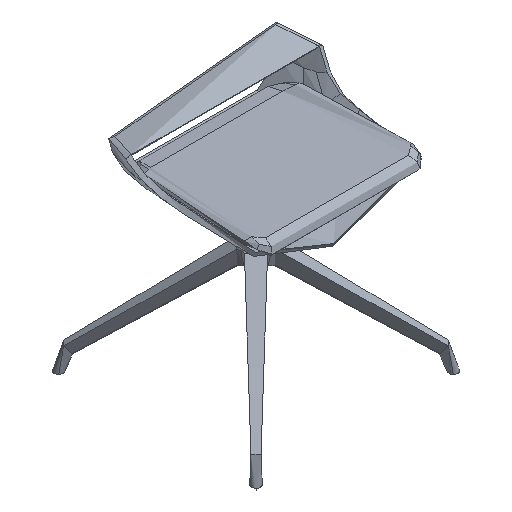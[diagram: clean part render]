
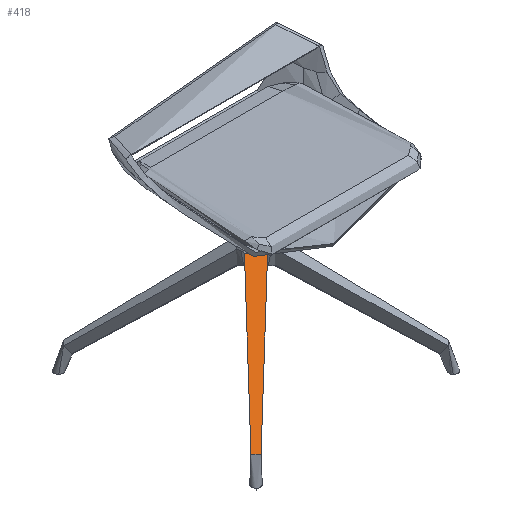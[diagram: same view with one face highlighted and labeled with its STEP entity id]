
A CAD part, isometric view. The second image highlights one B-rep face of the part: STEP entity #418.
In plain terms, the highlighted free-form (B-spline) face has degree [2, 1] with [3, 2] control points.
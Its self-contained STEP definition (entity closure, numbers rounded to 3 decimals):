
#108=(
BOUNDED_CURVE()
B_SPLINE_CURVE(2,(#23962,#23963,#23964),.UNSPECIFIED.,.F.,.F.)
B_SPLINE_CURVE_WITH_KNOTS((3,3),(91.538,481.362),
 .UNSPECIFIED.)
CURVE()
GEOMETRIC_REPRESENTATION_ITEM()
RATIONAL_B_SPLINE_CURVE((1.,0.861,1.))
REPRESENTATION_ITEM('')
);
#209=(
BOUNDED_SURFACE()
B_SPLINE_SURFACE(2,1,((#19577,#19578),(#19579,#19580),(#19581,#19582)),
 .UNSPECIFIED.,.F.,.F.,.F.)
B_SPLINE_SURFACE_WITH_KNOTS((3,3),(2,2),(0.,572.9),(66.217,
469.419),.UNSPECIFIED.)
GEOMETRIC_REPRESENTATION_ITEM()
RATIONAL_B_SPLINE_SURFACE(((1.,1.),(0.707,0.707),
(1.,1.)))
REPRESENTATION_ITEM('')
SURFACE()
);
#418=ADVANCED_FACE('',(#603),#209,.T.);
#603=FACE_OUTER_BOUND('',#788,.T.);
#788=EDGE_LOOP('',(#1499,#1500,#1501,#1502));
#1499=ORIENTED_EDGE('',*,*,#2077,.F.);
#1500=ORIENTED_EDGE('',*,*,#2063,.T.);
#1501=ORIENTED_EDGE('',*,*,#2075,.T.);
#1502=ORIENTED_EDGE('',*,*,#2073,.T.);
#2063=EDGE_CURVE('',#2708,#2709,#2432,.T.);
#2073=EDGE_CURVE('',#2715,#2714,#108,.T.);
#2075=EDGE_CURVE('',#2709,#2715,#2437,.T.);
#2077=EDGE_CURVE('',#2708,#2714,#2439,.T.);
#2432=B_SPLINE_CURVE_WITH_KNOTS('',3,(#23895,#23896,#23897,#23898,#23899,
#23900,#23901,#23902,#23903,#23904,#23905,#23906,#23907,#23908,#23909,#23910,
#23911,#23912,#23913,#23914,#23915,#23916,#23917,#23918,#23919),
 .UNSPECIFIED.,.F.,.F.,(4,1,1,1,2,2,2,1,1,1,2,2,2,1,1,1,4),(-52.559,
-45.022,-42.939,-40.857,-38.774,
-34.61,-30.445,-28.362,-26.28,
-24.197,-22.115,-17.95,-13.785,
-11.702,-9.62,-7.537,0.),.UNSPECIFIED.);
#2437=B_SPLINE_CURVE_WITH_KNOTS('',3,(#23968,#23969,#23970,#23971,#23972,
#23973,#23974,#23975,#23976,#23977,#23978,#23979,#23980,#23981,#23982,#23983,
#23984,#23985,#23986,#23987,#23988,#23989,#23990,#23991),.UNSPECIFIED.,
 .F.,.F.,(4,2,2,2,2,2,2,2,2,2,2,4),(-374.879,-281.16,
-187.44,-140.58,-93.72,-70.29,
-46.86,-35.145,-23.43,-17.572,
-11.715,-10.019),.UNSPECIFIED.);
#2439=B_SPLINE_CURVE_WITH_KNOTS('',3,(#24000,#24001,#24002,#24003,#24004,
#24005,#24006,#24007,#24008,#24009,#24010,#24011,#24012,#24013,#24014,#24015,
#24016,#24017,#24018,#24019,#24020,#24021,#24022,#24023),.UNSPECIFIED.,
 .F.,.F.,(4,2,2,2,2,2,2,2,2,2,2,4),(-374.879,-281.16,
-187.44,-140.58,-93.72,-70.29,
-46.86,-35.145,-23.43,-17.572,
-11.715,-10.019),.UNSPECIFIED.);
#2708=VERTEX_POINT('',#23371);
#2709=VERTEX_POINT('',#23372);
#2714=VERTEX_POINT('',#23377);
#2715=VERTEX_POINT('',#23378);
#19577=CARTESIAN_POINT('',(0.,-40.,281.011));
#19578=CARTESIAN_POINT('',(0.,-364.719,45.681));
#19579=CARTESIAN_POINT('',(-40.,-40.,281.011));
#19580=CARTESIAN_POINT('',(-364.719,-364.719,45.681));
#19581=CARTESIAN_POINT('',(-40.,0.,281.011));
#19582=CARTESIAN_POINT('',(-364.719,0.,45.681));
#23371=CARTESIAN_POINT('',(-245.446,-232.965,64.753));
#23372=CARTESIAN_POINT('',(-232.965,-245.446,64.753));
#23377=CARTESIAN_POINT('',(-38.747,-9.934,281.011));
#23378=CARTESIAN_POINT('',(-9.934,-38.747,281.011));
#23895=CARTESIAN_POINT('',(-245.446,-232.965,64.753));
#23896=CARTESIAN_POINT('',(-247.059,-234.512,63.133));
#23897=CARTESIAN_POINT('',(-249.072,-236.465,61.101));
#23898=CARTESIAN_POINT('',(-251.65,-238.893,58.534));
#23899=CARTESIAN_POINT('',(-252.692,-240.045,57.412));
#23900=CARTESIAN_POINT('',(-253.261,-241.012,56.63));
#23901=CARTESIAN_POINT('',(-253.971,-242.507,55.51));
#23902=CARTESIAN_POINT('',(-254.274,-243.622,54.794));
#23903=CARTESIAN_POINT('',(-254.423,-245.974,53.534));
#23904=CARTESIAN_POINT('',(-254.267,-247.217,52.989));
#23905=CARTESIAN_POINT('',(-253.614,-249.025,52.411));
#23906=CARTESIAN_POINT('',(-253.041,-250.206,52.106));
#23907=CARTESIAN_POINT('',(-251.783,-251.783,51.947));
#23908=CARTESIAN_POINT('',(-250.206,-253.041,52.106));
#23909=CARTESIAN_POINT('',(-249.025,-253.614,52.411));
#23910=CARTESIAN_POINT('',(-247.217,-254.267,52.989));
#23911=CARTESIAN_POINT('',(-245.974,-254.423,53.534));
#23912=CARTESIAN_POINT('',(-243.622,-254.274,54.794));
#23913=CARTESIAN_POINT('',(-242.507,-253.971,55.51));
#23914=CARTESIAN_POINT('',(-241.012,-253.261,56.63));
#23915=CARTESIAN_POINT('',(-240.045,-252.692,57.412));
#23916=CARTESIAN_POINT('',(-238.893,-251.65,58.534));
#23917=CARTESIAN_POINT('',(-236.465,-249.072,61.101));
#23918=CARTESIAN_POINT('',(-234.512,-247.059,63.133));
#23919=CARTESIAN_POINT('',(-232.965,-245.446,64.753));
#23962=CARTESIAN_POINT('',(-9.934,-38.747,281.011));
#23963=CARTESIAN_POINT('',(-32.867,-32.867,281.011));
#23964=CARTESIAN_POINT('',(-38.747,-9.934,281.011));
#23968=CARTESIAN_POINT('',(-232.965,-245.446,64.753));
#23969=CARTESIAN_POINT('',(-214.961,-226.73,83.573));
#23970=CARTESIAN_POINT('',(-196.78,-208.188,102.392));
#23971=CARTESIAN_POINT('',(-160.124,-171.381,140.021));
#23972=CARTESIAN_POINT('',(-141.688,-153.084,158.834));
#23973=CARTESIAN_POINT('',(-113.878,-125.781,187.036));
#23974=CARTESIAN_POINT('',(-104.581,-116.704,196.434));
#23975=CARTESIAN_POINT('',(-85.934,-98.593,215.218));
#23976=CARTESIAN_POINT('',(-76.59,-89.556,224.606));
#23977=CARTESIAN_POINT('',(-62.499,-76.049,238.664));
#23978=CARTESIAN_POINT('',(-57.81,-71.537,243.348));
#23979=CARTESIAN_POINT('',(-48.275,-62.65,252.684));
#23980=CARTESIAN_POINT('',(-43.434,-58.266,257.347));
#23981=CARTESIAN_POINT('',(-35.727,-52.103,264.221));
#23982=CARTESIAN_POINT('',(-33.076,-50.122,266.49));
#23983=CARTESIAN_POINT('',(-27.524,-46.4,270.915));
#23984=CARTESIAN_POINT('',(-24.621,-44.655,273.076));
#23985=CARTESIAN_POINT('',(-19.972,-42.321,276.093));
#23986=CARTESIAN_POINT('',(-18.372,-41.594,277.062));
#23987=CARTESIAN_POINT('',(-15.046,-40.269,278.863));
#23988=CARTESIAN_POINT('',(-13.317,-39.67,279.696));
#23989=CARTESIAN_POINT('',(-10.997,-39.016,280.626));
#23990=CARTESIAN_POINT('',(-10.468,-38.877,280.823));
#23991=CARTESIAN_POINT('',(-9.934,-38.747,281.011));
#24000=CARTESIAN_POINT('',(-245.446,-232.965,64.753));
#24001=CARTESIAN_POINT('',(-226.73,-214.961,83.573));
#24002=CARTESIAN_POINT('',(-208.188,-196.78,102.392));
#24003=CARTESIAN_POINT('',(-171.381,-160.124,140.021));
#24004=CARTESIAN_POINT('',(-153.084,-141.688,158.834));
#24005=CARTESIAN_POINT('',(-125.781,-113.878,187.036));
#24006=CARTESIAN_POINT('',(-116.704,-104.581,196.434));
#24007=CARTESIAN_POINT('',(-98.593,-85.934,215.218));
#24008=CARTESIAN_POINT('',(-89.556,-76.59,224.606));
#24009=CARTESIAN_POINT('',(-76.049,-62.499,238.664));
#24010=CARTESIAN_POINT('',(-71.537,-57.81,243.348));
#24011=CARTESIAN_POINT('',(-62.65,-48.275,252.684));
#24012=CARTESIAN_POINT('',(-58.266,-43.434,257.347));
#24013=CARTESIAN_POINT('',(-52.103,-35.727,264.221));
#24014=CARTESIAN_POINT('',(-50.122,-33.076,266.49));
#24015=CARTESIAN_POINT('',(-46.4,-27.524,270.915));
#24016=CARTESIAN_POINT('',(-44.655,-24.621,273.076));
#24017=CARTESIAN_POINT('',(-42.321,-19.972,276.093));
#24018=CARTESIAN_POINT('',(-41.594,-18.372,277.062));
#24019=CARTESIAN_POINT('',(-40.269,-15.046,278.863));
#24020=CARTESIAN_POINT('',(-39.67,-13.317,279.696));
#24021=CARTESIAN_POINT('',(-39.016,-10.997,280.626));
#24022=CARTESIAN_POINT('',(-38.877,-10.468,280.823));
#24023=CARTESIAN_POINT('',(-38.747,-9.934,281.011));
